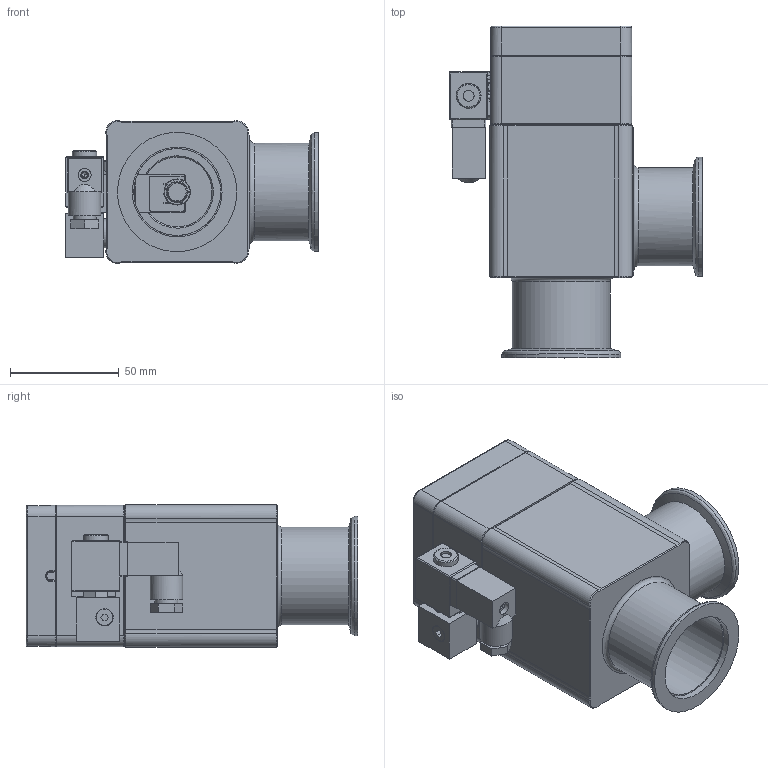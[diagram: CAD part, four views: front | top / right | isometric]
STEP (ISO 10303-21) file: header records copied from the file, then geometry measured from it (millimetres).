
FILE_DESCRIPTION((''),'2;1');
FILE_NAME('C:\TEMP\IDEAS\251596.stp','2006-09-19T16:03:17',('User'),( 'SDRC'),'I-DEAS Master Series 9','UNIX','Yes');
FILE_SCHEMA(('CONFIG_CONTROL_DESIGN'));
Length unit declared in the file: millimetre
Assembly tree (15 placements, depth 0):
Bounding box: 116.35 x 152.7 x 65.6 mm (x, y, z)
Volume: 239446.2 mm3; surface area: 124258 mm2
Topology: 11 solids, 17 shells, 717 faces, 1706 edges, 1094 vertices
Faces by surface type: bspline 717
Entity records: 22451 total; most frequent: CARTESIAN_POINT 11220, ORIENTED_EDGE 3150, EDGE_CURVE 1575, VERTEX_POINT 1013, EDGE_LOOP 758, FACE_OUTER_BOUND 660, ADVANCED_FACE 660, QUASI_UNIFORM_CURVE 594
